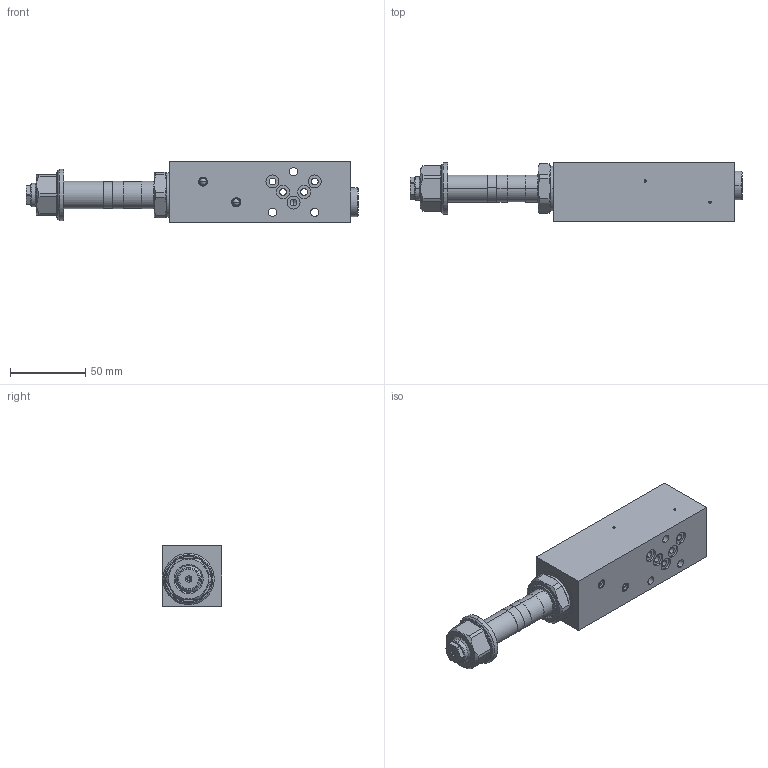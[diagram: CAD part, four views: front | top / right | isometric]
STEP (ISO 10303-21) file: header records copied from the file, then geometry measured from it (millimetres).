
FILE_DESCRIPTION (( 'STEP AP214' ), '1' );
FILE_NAME ('M.BSA04-P.STEP', '2017-03-31T06:09:48', ( '' ), ( '' ), 'SwSTEP 2.0', 'SolidWorks 2016', '' );
FILE_SCHEMA (( 'AUTOMOTIVE_DESIGN' ));
Length unit declared in the file: millimetre
Products named in the file (1): M.BSA04-P
Bounding box: 220 x 39.5 x 40 mm (x, y, z)
Volume: 219451.7 mm3; surface area: 39833 mm2
Topology: 6 solids, 11 shells, 333 faces, 757 edges, 457 vertices
Faces by surface type: cylinder 129, cone 101, plane 69, torus 18, sphere 16
Entity records: 13334 total; most frequent: CARTESIAN_POINT 2022, DIRECTION 1724, ORIENTED_EDGE 1470, EDGE_CURVE 735, AXIS2_PLACEMENT_3D 721, VERTEX_POINT 457, CIRCLE 387, EDGE_LOOP 384
